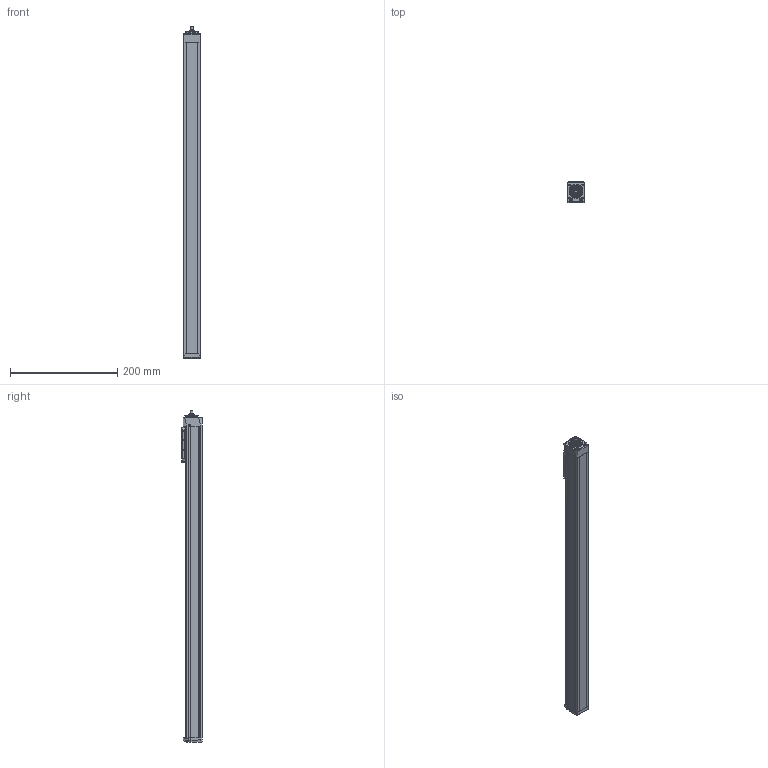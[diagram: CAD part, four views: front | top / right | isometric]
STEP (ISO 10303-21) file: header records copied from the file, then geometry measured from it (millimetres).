
FILE_DESCRIPTION(/* description */ ('STEP AP214'),/* implementation_level */ '2;1');
FILE_NAME(/* name */ 'MGBS 32 0802 500(0)',/* time_stamp */ '2023-04-12T10:45:29+02:00',/* author */ ('License CC BY-ND 4.0'),/* organization */ ('CADENAS'),/* preprocessor_version */ 'ST-DEVELOPER v19.3',/* originating_system */ 'PARTsolutions',/* authorisation */ ' ');
FILE_SCHEMA (('AUTOMOTIVE_DESIGN {1 0 10303 214 3 1 1}'));
Length unit declared in the file: millimetre
Products named in the file (6): MGBS 32 0802 500(0); MGBS 32 500_protection_strip; MGBS 32_carriage; MGBS 32_end_block; MGBS 32 500_profile; MGBS 32_drive_block
Assembly tree (5 placements, depth 2):
  MGBS 32 0802 500(0)
    MGBS 32 500_protection_strip
    MGBS 32_carriage
    MGBS 32_end_block
    MGBS 32 500_profile
    MGBS 32_drive_block
Bounding box: 32 x 38.5 x 619.5 mm (x, y, z)
Volume: 576122.1 mm3; surface area: 142766.4 mm2
Topology: 5 solids, 5 shells, 638 faces, 1686 edges, 1092 vertices
Faces by surface type: plane 301, cylinder 160, cone 94, bspline 56, torus 25, sphere 2
Full cylindrical faces by diameter (mm): 0.3 x1, 1.567 x4, 1.755 x4, 1.8 x2, 2 x2, 2.3 x4, 2.459 x8, 2.46 x4, 2.5 x11, 3 x1, 3.8 x4, 4.5 x6, 5 x5, 7.5 x1, 8 x1, 10 x1, 13.84 x1, 14.2 x1, 17.8 x1, 18.16 x1, 19.5 x1, 25 x2, 25.7 x1
Entity records: 23436 total; most frequent: CARTESIAN_POINT 4050, DIRECTION 3216, ORIENTED_EDGE 2990, EDGE_CURVE 1495, AXIS2_PLACEMENT_3D 1173, VERTEX_POINT 1077, LINE 870, VECTOR 870
